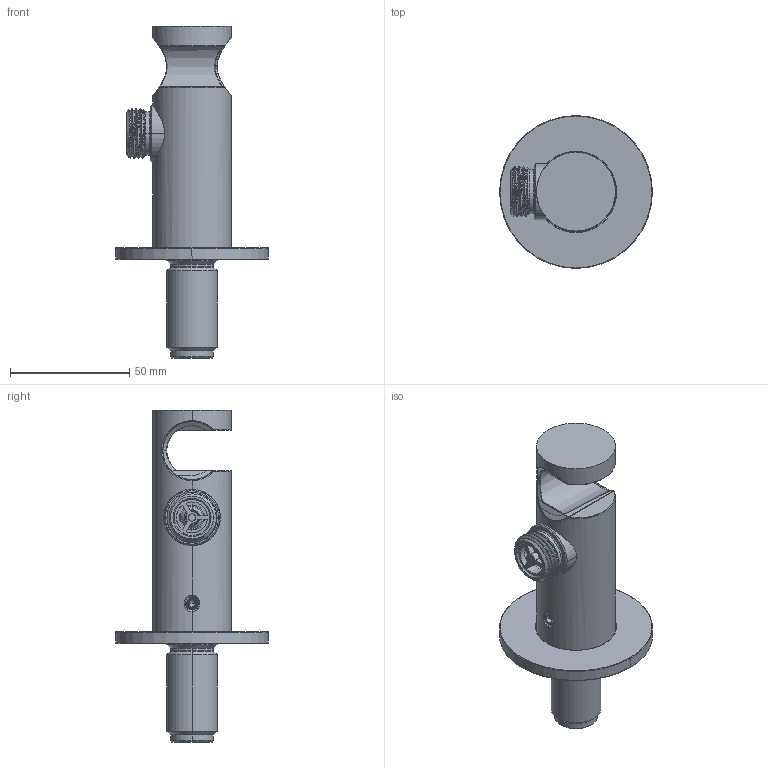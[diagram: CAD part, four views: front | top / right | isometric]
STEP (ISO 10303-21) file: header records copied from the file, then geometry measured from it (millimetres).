
FILE_DESCRIPTION((''),'2;1');
FILE_NAME('48446--00_ASM','2022-06-14T08:05:30',('sosm1'),(''),'CREO PARAMETRIC BY PTC INC, 2018190','CREO PARAMETRIC BY PTC INC, 2018190','');
FILE_SCHEMA(('CONFIG_CONTROL_DESIGN'));
Length unit declared in the file: millimetre
Products named in the file (20): 44462--; 44463--; 44461--_ASM; 4352700; 43059--; 4449100; 4950500-1; 4950500-2; 4950500-3; 4950500-F; 4950500-02; 4950500-01; 4950100_ASM; 43059--_SUB01_ASM; 4449200; 7921600; 4420385; 4420585; 44458--; 48446--00_ASM
Assembly tree (21 placements, depth 4):
  48446--00_ASM
    44461--_ASM
      44462--
      44463--
    4352700
    43059--_SUB01_ASM
      43059--
      4449100
      4950100_ASM
        4950500-1
        4950500-2
        4950500-3
        4950500-F
        4950500-02
        4950500-01
    4449200  x2
    7921600
    4420385
    4420585
    4449100
    44458--
Bounding box: 64 x 64 x 139 mm (x, y, z)
Volume: 71812.1 mm3; surface area: 46533.4 mm2
Topology: 18 solids, 18 shells, 519 faces, 1153 edges, 681 vertices
Faces by surface type: cylinder 160, plane 103, cone 99, bspline 90, torus 58, extrusion 5, sphere 4
Entity records: 29692 total; most frequent: CARTESIAN_POINT 18433, DIRECTION 2284, ORIENTED_EDGE 2266, EDGE_CURVE 1133, AXIS2_PLACEMENT_3D 969, VERTEX_POINT 673, EDGE_LOOP 562, FACE_OUTER_BOUND 511
